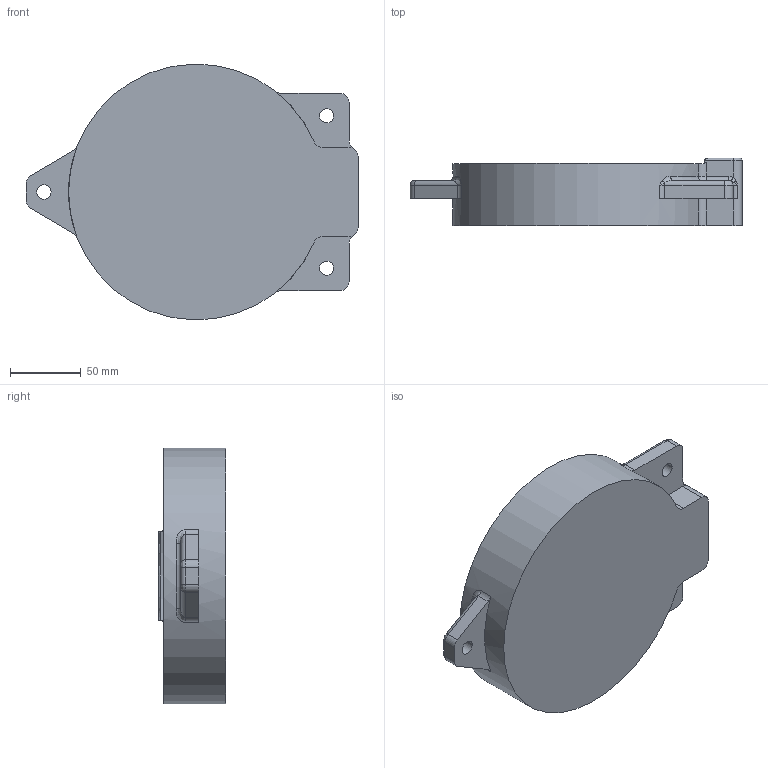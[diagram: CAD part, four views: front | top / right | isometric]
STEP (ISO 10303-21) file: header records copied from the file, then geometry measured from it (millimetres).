
FILE_DESCRIPTION((''),'2;1');
FILE_NAME('SAT-P-001-R0','2015-06-16T',('thm5'),(''),'PRO/ENGINEER BY PARAMETRIC TECHNOLOGY CORPORATION, 2010280','PRO/ENGINEER BY PARAMETRIC TECHNOLOGY CORPORATION, 2010280','');
FILE_SCHEMA(('CONFIG_CONTROL_DESIGN'));
Length unit declared in the file: inch
Products named in the file (1): SAT-P-001-R0
Bounding box: 234.9 x 47.62 x 180.89 mm (x, y, z)
Volume: 924696.9 mm3; surface area: 112751.1 mm2
Topology: 1 solids, 1 shells, 195 faces, 466 edges, 292 vertices
Faces by surface type: cylinder 91, plane 50, bspline 30, torus 22, sphere 2
Entity records: 8033 total; most frequent: CARTESIAN_POINT 3507, DIRECTION 954, ORIENTED_EDGE 932, EDGE_CURVE 466, AXIS2_PLACEMENT_3D 396, VERTEX_POINT 292, CIRCLE 231, EDGE_LOOP 222
